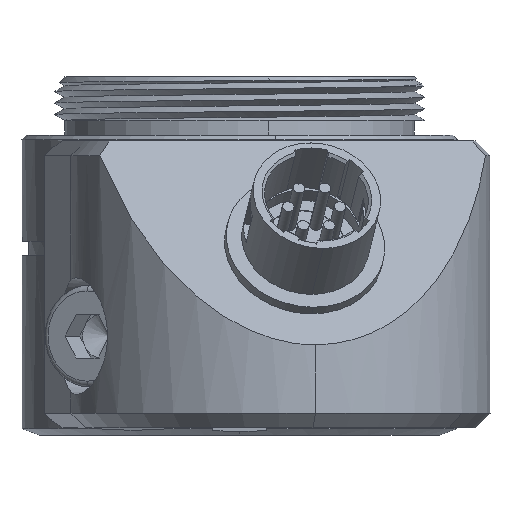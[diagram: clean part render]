
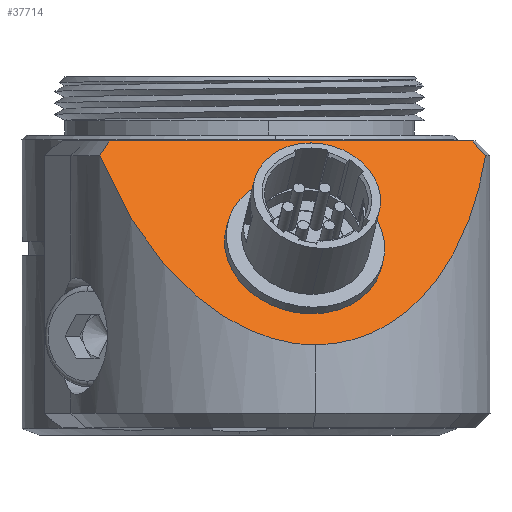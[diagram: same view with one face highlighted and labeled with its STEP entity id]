
A CAD part, left-side view. The second image highlights one B-rep face of the part: STEP entity #37714.
In plain terms, the highlighted planar face has unit normal (-0.807, -0.142, 0.574).
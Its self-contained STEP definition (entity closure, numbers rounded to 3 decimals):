
#37 = EDGE_CURVE ( 'NONE', #63230, #56831, #8297, .T. ) ;
#523 = EDGE_CURVE ( 'NONE', #12213, #68903, #41304, .T. ) ;
#1201 = CARTESIAN_POINT ( 'NONE',  ( -28.482, -11.232, -13.35 ) ) ;
#1526 = DIRECTION ( 'NONE',  ( 0.584, -0.337, 0.738 ) ) ;
#1543 = CARTESIAN_POINT ( 'NONE',  ( -21.805, -4.37, -2.258 ) ) ;
#3015 = CARTESIAN_POINT ( 'NONE',  ( -21.815, -4.151, -2.217 ) ) ;
#3876 = EDGE_LOOP ( 'NONE', ( #60515, #39853, #29996, #27190, #51491, #40114, #9481, #56869, #20645 ) ) ;
#6446 = CARTESIAN_POINT ( 'NONE',  ( -17.372, -17.787, 0.65 ) ) ;
#6621 = CARTESIAN_POINT ( 'NONE',  ( -29.544, -5.209, -13.35 ) ) ;
#7057 = CARTESIAN_POINT ( 'NONE',  ( -24.974, -4.404, -6.722 ) ) ;
#8297 = CIRCLE ( 'NONE', #29990, 4. ) ;
#8818 = CIRCLE ( 'NONE', #17811, 0.5 ) ;
#9077 = ORIENTED_EDGE ( 'NONE', *, *, #18910, .T. ) ;
#9481 = ORIENTED_EDGE ( 'NONE', *, *, #66059, .T. ) ;
#10587 = EDGE_CURVE ( 'NONE', #34107, #43167, #16200, .T. ) ;
#10698 = CARTESIAN_POINT ( 'NONE',  ( -19.89, -3.507, 0.65 ) ) ;
#11983 = VECTOR ( 'NONE', #36473, 1000. ) ;
#12213 = VERTEX_POINT ( 'NONE', #65551 ) ;
#12497 = DIRECTION ( 'NONE',  ( 0.584, -0.337, 0.738 ) ) ;
#13264 = CARTESIAN_POINT ( 'NONE',  ( -22.621, -4.801, -3.512 ) ) ;
#13626 = LINE ( 'NONE', #30832, #11983 ) ;
#14055 = CARTESIAN_POINT ( 'NONE',  ( -22.088, 8.957, 0.65 ) ) ;
#15314 = CARTESIAN_POINT ( 'NONE',  ( -18.243, -16.882, -0.35 ) ) ;
#16128 = DIRECTION ( 'NONE',  ( -0.174, 0.985, 0. ) ) ;
#16200 =( BOUNDED_CURVE ( )  B_SPLINE_CURVE ( 3, ( #6621, #1201, #33491, #44597 ),
 .UNSPECIFIED., .F., .F. ) 
 B_SPLINE_CURVE_WITH_KNOTS ( ( 4, 4 ),
 ( 0., 1.189 ),
 .UNSPECIFIED. ) 
 CURVE ( )  GEOMETRIC_REPRESENTATION_ITEM ( )  RATIONAL_B_SPLINE_CURVE ( ( 1., 0.886, 0.886, 1. ) ) 
 REPRESENTATION_ITEM ( '' )  );
#16771 = VERTEX_POINT ( 'NONE', #46388 ) ;
#17811 = AXIS2_PLACEMENT_3D ( 'NONE', #22492, #60385, #27960 ) ;
#18763 = CARTESIAN_POINT ( 'NONE',  ( -18.059, -16.58, -0.016 ) ) ;
#18910 = EDGE_CURVE ( 'NONE', #43167, #27400, #62594, .T. ) ;
#19241 = LINE ( 'NONE', #6446, #32020 ) ;
#19419 = AXIS2_PLACEMENT_3D ( 'NONE', #10698, #48599, #16128 ) ;
#19558 = CARTESIAN_POINT ( 'NONE',  ( -22.64, 9.403, -0.016 ) ) ;
#19834 = DIRECTION ( 'NONE',  ( 0.807, 0.142, -0.574 ) ) ;
#20098 = CARTESIAN_POINT ( 'NONE',  ( -22.899, -3.225, -3.512 ) ) ;
#20645 = ORIENTED_EDGE ( 'NONE', *, *, #37, .T. ) ;
#22492 = CARTESIAN_POINT ( 'NONE',  ( -22.098, -4.201, -2.627 ) ) ;
#22572 = CARTESIAN_POINT ( 'NONE',  ( -30.606, 0.813, -13.35 ) ) ;
#23966 = ORIENTED_EDGE ( 'NONE', *, *, #49496, .F. ) ;
#25940 = CIRCLE ( 'NONE', #59906, 0.5 ) ;
#26629 = CARTESIAN_POINT ( 'NONE',  ( -22.098, -4.201, -2.627 ) ) ;
#26798 = VERTEX_POINT ( 'NONE', #59290 ) ;
#27190 = ORIENTED_EDGE ( 'NONE', *, *, #60144, .T. ) ;
#27355 = AXIS2_PLACEMENT_3D ( 'NONE', #66501, #34061, #1526 ) ;
#27400 = VERTEX_POINT ( 'NONE', #31795 ) ;
#27960 = DIRECTION ( 'NONE',  ( -0.584, 0.337, -0.738 ) ) ;
#28442 = VECTOR ( 'NONE', #48951, 1000. ) ;
#29133 = ORIENTED_EDGE ( 'NONE', *, *, #42772, .T. ) ;
#29712 = VERTEX_POINT ( 'NONE', #13264 ) ;
#29990 = AXIS2_PLACEMENT_3D ( 'NONE', #52304, #19834, #57757 ) ;
#29996 = ORIENTED_EDGE ( 'NONE', *, *, #523, .T. ) ;
#30832 = CARTESIAN_POINT ( 'NONE',  ( -22.323, -4.748, -3.079 ) ) ;
#30916 = EDGE_CURVE ( 'NONE', #26798, #16771, #59146, .T. ) ;
#30963 = CARTESIAN_POINT ( 'NONE',  ( -22.011, -4.693, -2.627 ) ) ;
#31292 = CARTESIAN_POINT ( 'NONE',  ( -22.202, -3.61, -2.627 ) ) ;
#31795 = CARTESIAN_POINT ( 'NONE',  ( -17.692, -15.971, 0.65 ) ) ;
#32020 = VECTOR ( 'NONE', #33549, 1000. ) ;
#32079 = DIRECTION ( 'NONE',  ( -0.584, 0.337, -0.738 ) ) ;
#32357 = CARTESIAN_POINT ( 'NONE',  ( -27.311, -3.054, -9.675 ) ) ;
#33491 = CARTESIAN_POINT ( 'NONE',  ( -24.228, -15.626, -8.457 ) ) ;
#33549 = DIRECTION ( 'NONE',  ( 0.174, -0.985, 0. ) ) ;
#34061 = DIRECTION ( 'NONE',  ( 0.807, 0.142, -0.574 ) ) ;
#34107 = VERTEX_POINT ( 'NONE', #63251 ) ;
#35155 = CARTESIAN_POINT ( 'NONE',  ( -17.692, -15.971, 0.65 ) ) ;
#36473 = DIRECTION ( 'NONE',  ( -0.565, -0.1, -0.819 ) ) ;
#36716 = DIRECTION ( 'NONE',  ( -0.584, 0.337, -0.738 ) ) ;
#37530 = VERTEX_POINT ( 'NONE', #30963 ) ;
#37714 = ADVANCED_FACE ( 'NONE', ( #40991, #57042 ), #59309, .T. ) ;
#39853 = ORIENTED_EDGE ( 'NONE', *, *, #62588, .T. ) ;
#40055 = EDGE_CURVE ( 'NONE', #61357, #63230, #56543, .T. ) ;
#40114 = ORIENTED_EDGE ( 'NONE', *, *, #58504, .T. ) ;
#40264 = DIRECTION ( 'NONE',  ( 0.174, -0.985, 0. ) ) ;
#40991 = FACE_BOUND ( 'NONE', #3876, .T. ) ;
#41195 = CARTESIAN_POINT ( 'NONE',  ( -22.364, 9.181, 0.317 ) ) ;
#41304 = LINE ( 'NONE', #56355, #53959 ) ;
#42772 = EDGE_CURVE ( 'NONE', #16771, #34107, #61711, .T. ) ;
#43167 = VERTEX_POINT ( 'NONE', #15314 ) ;
#44597 = CARTESIAN_POINT ( 'NONE',  ( -18.243, -16.882, -0.35 ) ) ;
#45017 = DIRECTION ( 'NONE',  ( 0.807, 0.142, -0.574 ) ) ;
#46388 = CARTESIAN_POINT ( 'NONE',  ( -22.917, 9.625, -0.35 ) ) ;
#46526 = ORIENTED_EDGE ( 'NONE', *, *, #30916, .T. ) ;
#48599 = DIRECTION ( 'NONE',  ( -0.807, -0.142, 0.574 ) ) ;
#48951 = DIRECTION ( 'NONE',  ( -0.565, -0.1, -0.819 ) ) ;
#49261 = ORIENTED_EDGE ( 'NONE', *, *, #10587, .T. ) ;
#49496 = EDGE_CURVE ( 'NONE', #26798, #27400, #19241, .T. ) ;
#49532 = CARTESIAN_POINT ( 'NONE',  ( -22.917, 9.625, -0.35 ) ) ;
#49708 = AXIS2_PLACEMENT_3D ( 'NONE', #26629, #64434, #32079 ) ;
#50246 = AXIS2_PLACEMENT_3D ( 'NONE', #7057, #45017, #12497 ) ;
#50618 = EDGE_LOOP ( 'NONE', ( #49261, #9077, #23966, #46526, #29133 ) ) ;
#50667 = EDGE_CURVE ( 'NONE', #51428, #56831, #57207, .T. ) ;
#50702 = EDGE_CURVE ( 'NONE', #54457, #37530, #8818, .T. ) ;
#50968 = CARTESIAN_POINT ( 'NONE',  ( -18.243, -16.882, -0.35 ) ) ;
#51428 = VERTEX_POINT ( 'NONE', #56245 ) ;
#51491 = ORIENTED_EDGE ( 'NONE', *, *, #50702, .T. ) ;
#52304 = CARTESIAN_POINT ( 'NONE',  ( -24.974, -4.404, -6.722 ) ) ;
#53959 = VECTOR ( 'NONE', #40264, 1000. ) ;
#54435 = CARTESIAN_POINT ( 'NONE',  ( -22.601, -3.173, -3.079 ) ) ;
#54457 = VERTEX_POINT ( 'NONE', #1543 ) ;
#55006 = CARTESIAN_POINT ( 'NONE',  ( -28.112, 6.397, -8.457 ) ) ;
#56245 = CARTESIAN_POINT ( 'NONE',  ( -22.289, -3.118, -2.627 ) ) ;
#56355 = CARTESIAN_POINT ( 'NONE',  ( -21.867, -3.856, -2.217 ) ) ;
#56543 = CIRCLE ( 'NONE', #27355, 4. ) ;
#56831 = VERTEX_POINT ( 'NONE', #20098 ) ;
#56869 = ORIENTED_EDGE ( 'NONE', *, *, #40055, .T. ) ;
#57042 = FACE_OUTER_BOUND ( 'NONE', #50618, .T. ) ;
#57207 = LINE ( 'NONE', #54435, #28442 ) ;
#57479 = CARTESIAN_POINT ( 'NONE',  ( -22.917, 9.625, -0.35 ) ) ;
#57757 = DIRECTION ( 'NONE',  ( 0.584, -0.337, 0.738 ) ) ;
#58504 = EDGE_CURVE ( 'NONE', #37530, #29712, #13626, .T. ) ;
#59146 = B_SPLINE_CURVE_WITH_KNOTS ( 'NONE', 3,
 ( #14055, #41195, #19558, #57479 ),
 .UNSPECIFIED., .F., .F.,
 ( 4, 4 ),
 ( 0., 0.001 ),
 .UNSPECIFIED. ) ;
#59290 = CARTESIAN_POINT ( 'NONE',  ( -22.088, 8.957, 0.65 ) ) ;
#59309 = PLANE ( 'NONE',  #19419 ) ;
#59906 = AXIS2_PLACEMENT_3D ( 'NONE', #31292, #69104, #36716 ) ;
#60144 = EDGE_CURVE ( 'NONE', #68903, #54457, #60660, .T. ) ;
#60385 = DIRECTION ( 'NONE',  ( 0.807, 0.142, -0.574 ) ) ;
#60477 = CARTESIAN_POINT ( 'NONE',  ( -29.544, -5.209, -13.35 ) ) ;
#60515 = ORIENTED_EDGE ( 'NONE', *, *, #50667, .F. ) ;
#60660 = CIRCLE ( 'NONE', #49708, 0.5 ) ;
#61357 = VERTEX_POINT ( 'NONE', #65011 ) ;
#61711 =( BOUNDED_CURVE ( )  B_SPLINE_CURVE ( 3, ( #49532, #55006, #22572, #60477 ),
 .UNSPECIFIED., .F., .F. ) 
 B_SPLINE_CURVE_WITH_KNOTS ( ( 4, 4 ),
 ( 5.094, 6.283 ),
 .UNSPECIFIED. ) 
 CURVE ( )  GEOMETRIC_REPRESENTATION_ITEM ( )  RATIONAL_B_SPLINE_CURVE ( ( 1., 0.886, 0.886, 1. ) ) 
 REPRESENTATION_ITEM ( '' )  );
#62588 = EDGE_CURVE ( 'NONE', #51428, #12213, #25940, .T. ) ;
#62594 = B_SPLINE_CURVE_WITH_KNOTS ( 'NONE', 3,
 ( #50968, #18763, #67571, #35155 ),
 .UNSPECIFIED., .F., .F.,
 ( 4, 4 ),
 ( 0., 0.001 ),
 .UNSPECIFIED. ) ;
#63230 = VERTEX_POINT ( 'NONE', #32357 ) ;
#63251 = CARTESIAN_POINT ( 'NONE',  ( -29.544, -5.209, -13.35 ) ) ;
#63758 = CIRCLE ( 'NONE', #50246, 4. ) ;
#64434 = DIRECTION ( 'NONE',  ( 0.807, 0.142, -0.574 ) ) ;
#65011 = CARTESIAN_POINT ( 'NONE',  ( -22.637, -5.753, -3.77 ) ) ;
#65551 = CARTESIAN_POINT ( 'NONE',  ( -21.919, -3.56, -2.217 ) ) ;
#66059 = EDGE_CURVE ( 'NONE', #29712, #61357, #63758, .T. ) ;
#66501 = CARTESIAN_POINT ( 'NONE',  ( -24.974, -4.404, -6.722 ) ) ;
#67571 = CARTESIAN_POINT ( 'NONE',  ( -17.875, -16.276, 0.317 ) ) ;
#68903 = VERTEX_POINT ( 'NONE', #3015 ) ;
#69104 = DIRECTION ( 'NONE',  ( 0.807, 0.142, -0.574 ) ) ;
